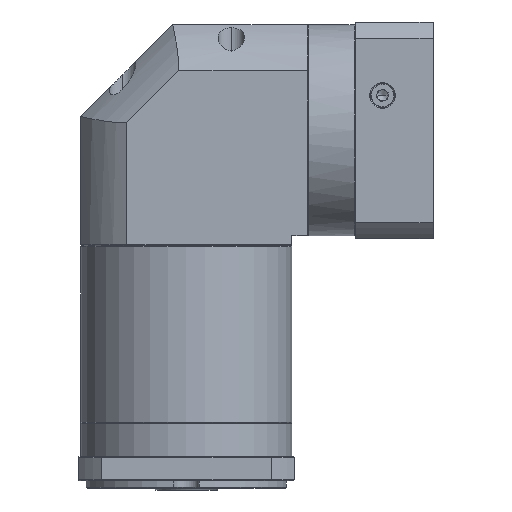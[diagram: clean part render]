
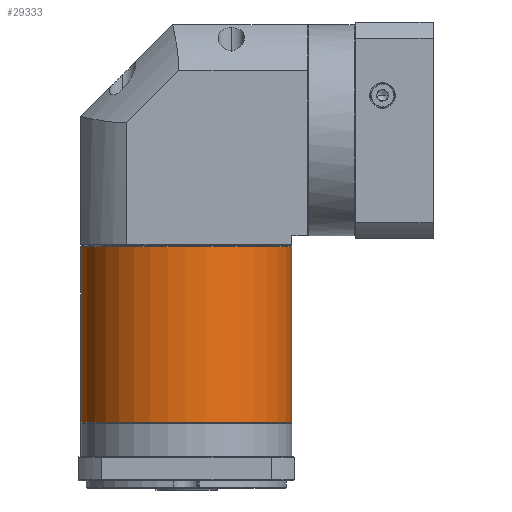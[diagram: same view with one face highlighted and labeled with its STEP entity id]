
A CAD part, front view. The second image highlights one B-rep face of the part: STEP entity #29333.
In plain terms, the highlighted cylindrical face has radius 57.5 mm (diameter 115 mm), a partial arc.
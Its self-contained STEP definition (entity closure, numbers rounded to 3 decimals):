
#359 = CARTESIAN_POINT ( 'NONE',  ( -12.167, 68.819, -149.656 ) ) ;
#1549 = CARTESIAN_POINT ( 'NONE',  ( 45.333, 11.319, -53.945 ) ) ;
#3771 = CARTESIAN_POINT ( 'NONE',  ( 102.833, 68.819, -53.445 ) ) ;
#3988 = AXIS2_PLACEMENT_3D ( 'NONE', #86509, #27058, #106336 ) ;
#7377 = VERTEX_POINT ( 'NONE', #24939 ) ;
#15723 = ORIENTED_EDGE ( 'NONE', *, *, #58105, .F. ) ;
#16385 = EDGE_CURVE ( 'NONE', #75851, #87248, #41097, .T. ) ;
#17953 = CARTESIAN_POINT ( 'NONE',  ( -12.167, 68.819, -53.945 ) ) ;
#21835 = DIRECTION ( 'NONE',  ( -1., 0., 0. ) ) ;
#24506 = AXIS2_PLACEMENT_3D ( 'NONE', #96620, #85839, #106546 ) ;
#24939 = CARTESIAN_POINT ( 'NONE',  ( 102.833, 68.819, -53.945 ) ) ;
#27058 = DIRECTION ( 'NONE',  ( 0., 0., 1. ) ) ;
#29333 = ADVANCED_FACE ( 'NONE', ( #78783 ), #112799, .T. ) ;
#29936 = ORIENTED_EDGE ( 'NONE', *, *, #68214, .T. ) ;
#38905 = ORIENTED_EDGE ( 'NONE', *, *, #66259, .T. ) ;
#41097 = LINE ( 'NONE', #72863, #90776 ) ;
#42059 = EDGE_LOOP ( 'NONE', ( #15723, #108536, #38905, #63057, #29936 ) ) ;
#48891 = DIRECTION ( 'NONE',  ( 0., 0., -1. ) ) ;
#49923 = LINE ( 'NONE', #3771, #80918 ) ;
#50105 = CIRCLE ( 'NONE', #24506, 57.5 ) ;
#58105 = EDGE_CURVE ( 'NONE', #7377, #87697, #49923, .T. ) ;
#58232 = CIRCLE ( 'NONE', #3988, 57.5 ) ;
#60224 = AXIS2_PLACEMENT_3D ( 'NONE', #89239, #48891, #119979 ) ;
#62576 = CARTESIAN_POINT ( 'NONE',  ( 45.333, 68.819, -53.945 ) ) ;
#63057 = ORIENTED_EDGE ( 'NONE', *, *, #16385, .T. ) ;
#66259 = EDGE_CURVE ( 'NONE', #112889, #75851, #50105, .T. ) ;
#68214 = EDGE_CURVE ( 'NONE', #87248, #87697, #58232, .T. ) ;
#72863 = CARTESIAN_POINT ( 'NONE',  ( -12.167, 68.819, -53.445 ) ) ;
#75851 = VERTEX_POINT ( 'NONE', #17953 ) ;
#78783 = FACE_OUTER_BOUND ( 'NONE', #42059, .T. ) ;
#80918 = VECTOR ( 'NONE', #123349, 1000. ) ;
#84689 = EDGE_CURVE ( 'NONE', #7377, #112889, #107238, .T. ) ;
#85839 = DIRECTION ( 'NONE',  ( 0., 0., -1. ) ) ;
#86509 = CARTESIAN_POINT ( 'NONE',  ( 45.333, 68.819, -149.656 ) ) ;
#87248 = VERTEX_POINT ( 'NONE', #359 ) ;
#87697 = VERTEX_POINT ( 'NONE', #118935 ) ;
#89239 = CARTESIAN_POINT ( 'NONE',  ( 45.333, 68.819, -53.445 ) ) ;
#90776 = VECTOR ( 'NONE', #102701, 1000. ) ;
#96620 = CARTESIAN_POINT ( 'NONE',  ( 45.333, 68.819, -53.945 ) ) ;
#102701 = DIRECTION ( 'NONE',  ( 0., 0., -1. ) ) ;
#106336 = DIRECTION ( 'NONE',  ( -1., 0., 0. ) ) ;
#106546 = DIRECTION ( 'NONE',  ( -1., 0., 0. ) ) ;
#107238 = CIRCLE ( 'NONE', #120914, 57.5 ) ;
#108536 = ORIENTED_EDGE ( 'NONE', *, *, #84689, .T. ) ;
#110235 = DIRECTION ( 'NONE',  ( 0., 0., -1. ) ) ;
#112799 = CYLINDRICAL_SURFACE ( 'NONE', #60224, 57.5 ) ;
#112889 = VERTEX_POINT ( 'NONE', #1549 ) ;
#118935 = CARTESIAN_POINT ( 'NONE',  ( 102.833, 68.819, -149.656 ) ) ;
#119979 = DIRECTION ( 'NONE',  ( -1., 0., 0. ) ) ;
#120914 = AXIS2_PLACEMENT_3D ( 'NONE', #62576, #110235, #21835 ) ;
#123349 = DIRECTION ( 'NONE',  ( 0., 0., -1. ) ) ;
